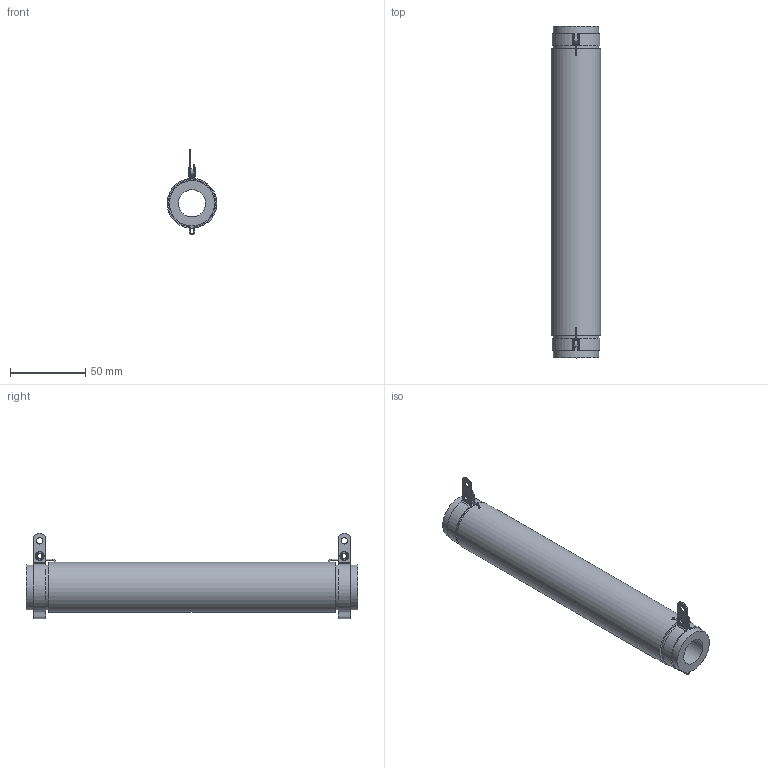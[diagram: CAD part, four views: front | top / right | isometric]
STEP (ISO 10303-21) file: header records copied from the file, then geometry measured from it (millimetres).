
FILE_DESCRIPTION(/* description */ (''),/* implementation_level */ '2;1');
FILE_NAME(/* name */ 'C:\_Vault\Dati\CATALOGO\RC-RS\TC\RS00220.stp',/* time_stamp */ '2014-01-22T17:40:36+01:00',/* author */ ('stefano'),/* organization */ (''),/* preprocessor_version */ 'ST-DEVELOPER v15.2',/* originating_system */ 'Autodesk Inventor 2014',/* authorisation */ '');
FILE_SCHEMA (('AUTOMOTIVE_DESIGN { 1 0 10303 214 3 1 1 }'));
Length unit declared in the file: millimetre
Products named in the file (1): RS00220
Bounding box: 33 x 220 x 56.36 mm (x, y, z)
Volume: 129433.6 mm3; surface area: 38351.2 mm2
Topology: 1 solids, 5 shells, 88 faces, 213 edges, 141 vertices
Faces by surface type: cylinder 38, plane 32, torus 10, bspline 8
Full cylindrical faces by diameter (mm): 0.4 x2, 0.8 x4, 3.2 x2, 4.2 x4, 6 x4, 18 x1, 30 x2, 33 x1
Entity records: 2983 total; most frequent: CARTESIAN_POINT 927, DIRECTION 398, ORIENTED_EDGE 340, AXIS2_PLACEMENT_3D 171, EDGE_CURVE 170, EDGE_LOOP 148, VERTEX_POINT 130, CIRCLE 90
